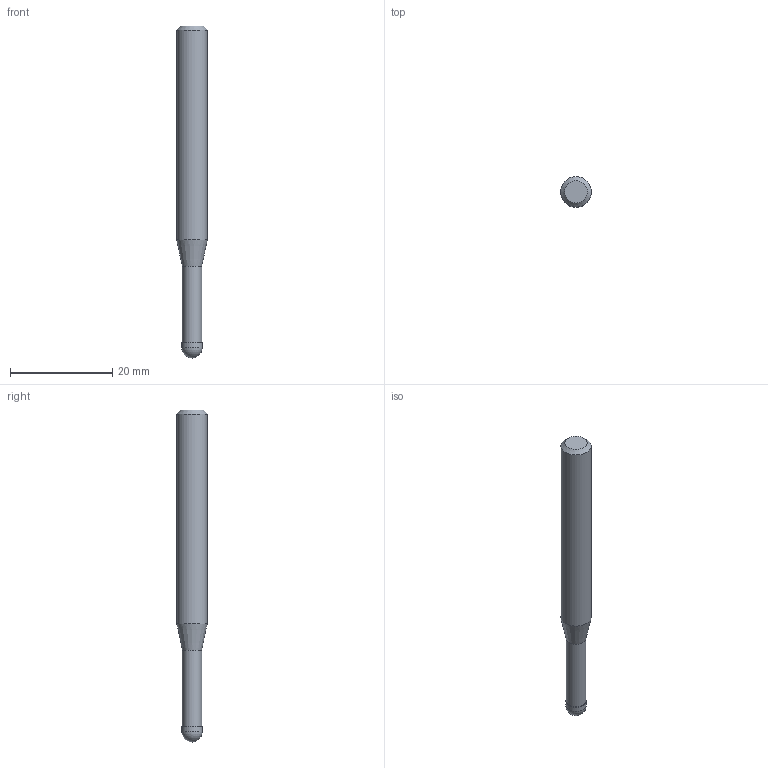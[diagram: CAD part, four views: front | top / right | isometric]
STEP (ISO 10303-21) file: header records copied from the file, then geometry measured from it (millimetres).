
FILE_DESCRIPTION((''),'2;1');
FILE_NAME('C:\Users\nsx150\AppData\Local\Temp\Mastercam 2021\ARV7HD45SN\TEMP.step','2023-06-13T16:39:10',(''),(''),'STEP Write','Mastercam 2021 ... CNC Software, Inc.','');
FILE_SCHEMA(('AUTOMOTIVE_DESIGN'));
Length unit declared in the file: millimetre
Products named in the file (1): None
Bounding box: 6 x 6 x 65 mm (x, y, z)
Volume: 1475.7 mm3; surface area: 1129.1 mm2
Topology: 2 solids, 2 shells, 9 faces, 14 edges, 8 vertices
Faces by surface type: plane 3, cylinder 3, cone 2, sphere 1
Full cylindrical faces by diameter (mm): 3.8 x1, 4 x1, 6 x1
Entity records: 211 total; most frequent: DIRECTION 36, CARTESIAN_POINT 25, AXIS2_PLACEMENT_3D 18, ORIENTED_EDGE 14, EDGE_LOOP 14, STYLED_ITEM 12, ADVANCED_FACE 9, FACE_BOUND 8
